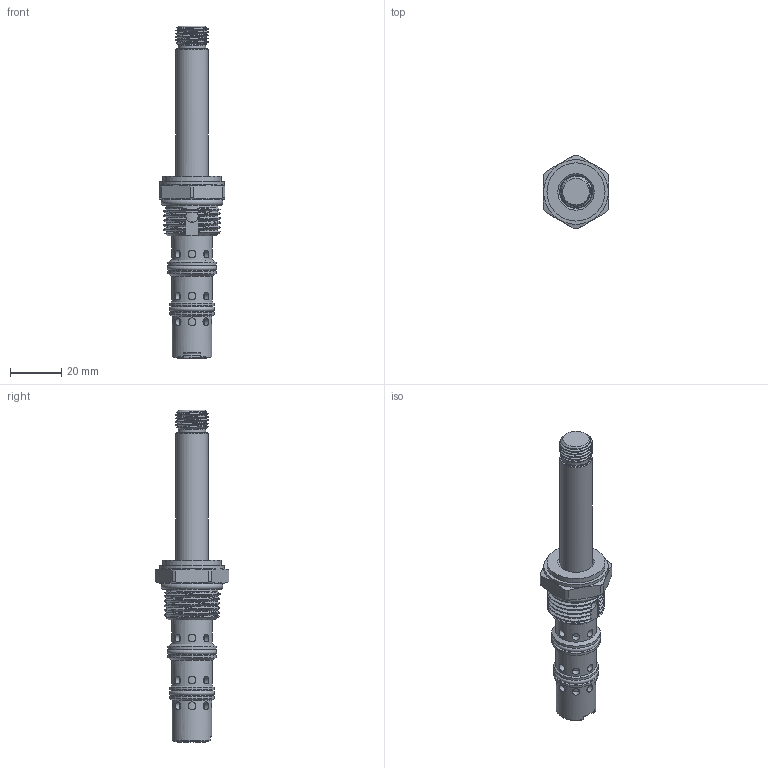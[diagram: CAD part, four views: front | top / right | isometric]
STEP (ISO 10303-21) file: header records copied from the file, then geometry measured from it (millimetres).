
FILE_DESCRIPTION(/* description */ ('','CAx-IF Rec.Pracs.---Representation and Presentation of Product Manufacturing Information (PMI)---4.0---2014-10-13'),/* implementation_level */ '2;1');
FILE_NAME(/* name */ 'P:\EARS\EAR16xx\EAR1683 - catalog pages changes\Group2_Distribution_12_16_22\RTech Agency_Tom\_step files\EDGPRZ00.stp',/* time_stamp */ '2023-01-13T15:47:19-06:00',/* author */ ('Michael'),/* organization */ (''),/* preprocessor_version */ 'ST-DEVELOPER v17.2',/* originating_system */ 'Autodesk Inventor 2019',/* authorisation */ '');
FILE_SCHEMA (('AP242_MANAGED_MODEL_BASED_3D_ENGINEERING_MIM_LF { 1 0 10303 442 1 1 4 }'));
Length unit declared in the file: inch
Products named in the file (1): EDGPRZ00
Bounding box: 25.4 x 28.57 x 129.11 mm (x, y, z)
Volume: 25857.7 mm3; surface area: 9994.3 mm2
Topology: 1 solids, 5 shells, 238 faces, 654 edges, 454 vertices
Faces by surface type: cylinder 102, bspline 59, plane 48, cone 22, torus 7
Full cylindrical faces by diameter (mm): 1.041 x1, 3.048 x24, 3.165 x1, 3.277 x1, 10.668 x1, 11.049 x1, 11.1 x1, 11.11 x1, 12.573 x3, 12.611 x1, 12.675 x1, 14.592 x2, 15.431 x1, 15.875 x2, 16.167 x2, 17.297 x2, 18.872 x2, 20.201 x2, 22.606 x1, 25.146 x1
Entity records: 15596 total; most frequent: CARTESIAN_POINT 9902, ORIENTED_EDGE 1308, DIRECTION 823, EDGE_CURVE 654, VERTEX_POINT 456, AXIS2_PLACEMENT_3D 331, B_SPLINE_CURVE_WITH_KNOTS 324, EDGE_LOOP 276
